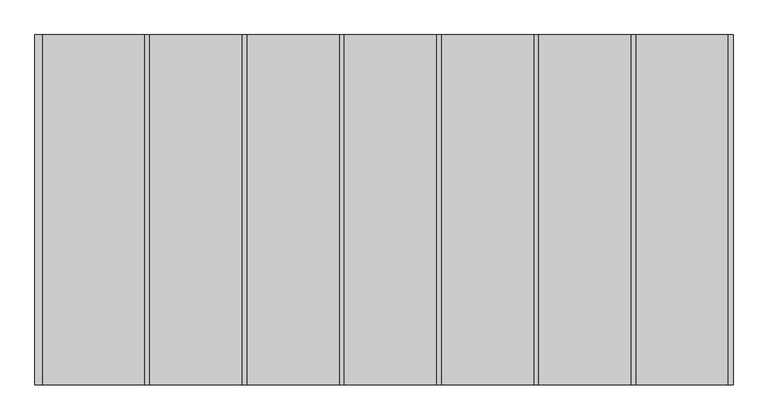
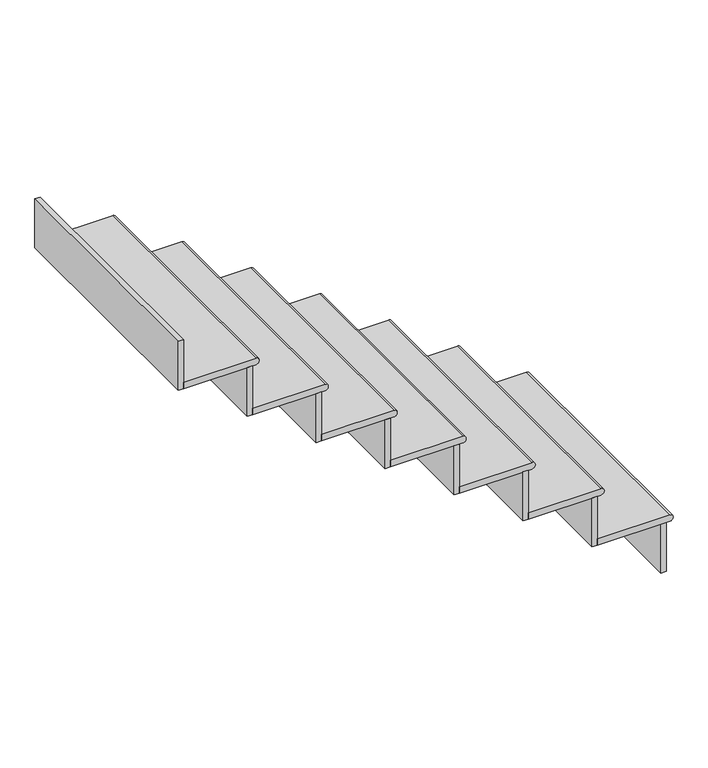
"""IFC4 building model written with IfcOpenShell, lengths in millimetres: stair flight geometry."""

from ifc_helpers import new_model, si_unit, point, frame, frame_2d, origin, place, context, project, spatial, polyline, circle_curve, trimmed, segment, composite_curve, outline, extrude, source, transform, mapped, element, save


def stair_flight_34373fae(model_context):
    return source(origin(), model_context, "Body", "SweptSolid", [
        extrude(outline(composite_curve([segment(polyline([(1714.5, -16016.7481446), (1714.5, -16283.4481446), (1689.1, -16283.4481446), (1689.1, -16016.7481446)]), True, "CONTINUOUS"), segment(trimmed(circle_curve(frame_2d((1701.8, -16016.7481446)), 12.7), [point((1689.1, -16016.7481446))], [point((1714.5, -16016.7481446))], False, "CARTESIAN"), True, "CONTINUOUS")], self_intersect=False)), frame((0.0, 8223.1128094, 0.0), z_axis=(0.0, 1.0, 0.0), x_axis=(0.0, 0.0, 1.0)), (0.0, 0.0, 1.0), 914.4),
        extrude(outline(polyline([(-16048.4981446, 9137.5128094), (-16029.4481446, 9137.5128094), (-16029.4481446, 8223.1128094), (-16048.4981446, 8223.1128094), (-16048.4981446, 9137.5128094)])), frame((0.0, 0.0, 1498.6), z_axis=(0.0, 0.0, 1.0), x_axis=(1.0, 0.0, 0.0)), (0.0, 0.0, 1.0), 190.5),
        extrude(outline(polyline([(-16302.4981446, 9137.5128094), (-16283.4481446, 9137.5128094), (-16283.4481446, 8223.1128094), (-16302.4981446, 8223.1128094), (-16302.4981446, 9137.5128094)])), frame((0.0, 0.0, 1689.1), z_axis=(0.0, 0.0, 1.0), x_axis=(1.0, 0.0, 0.0)), (0.0, 0.0, 1.0), 190.5),
        extrude(outline(composite_curve([segment(polyline([(1905.0, -16270.7481446), (1905.0, -16537.4481446), (1879.6, -16537.4481446), (1879.6, -16270.7481446)]), True, "CONTINUOUS"), segment(trimmed(circle_curve(frame_2d((1892.3, -16270.7481446)), 12.7), [point((1879.6, -16270.7481446))], [point((1905.0, -16270.7481446))], False, "CARTESIAN"), True, "CONTINUOUS")], self_intersect=False)), frame((0.0, 8223.1128094, 0.0), z_axis=(0.0, 1.0, 0.0), x_axis=(0.0, 0.0, 1.0)), (0.0, 0.0, 1.0), 914.4),
        extrude(outline(polyline([(-16556.4981446, 9137.5128094), (-16537.4481446, 9137.5128094), (-16537.4481446, 8223.1128094), (-16556.4981446, 8223.1128094), (-16556.4981446, 9137.5128094)])), frame((0.0, 0.0, 1879.6), z_axis=(0.0, 0.0, 1.0), x_axis=(1.0, 0.0, 0.0)), (0.0, 0.0, 1.0), 190.5),
        extrude(outline(composite_curve([segment(polyline([(2095.5, -16524.7481446), (2095.5, -16791.4481446), (2070.1, -16791.4481446), (2070.1, -16524.7481446)]), True, "CONTINUOUS"), segment(trimmed(circle_curve(frame_2d((2082.8, -16524.7481446)), 12.7), [point((2070.1, -16524.7481446))], [point((2095.5, -16524.7481446))], False, "CARTESIAN"), True, "CONTINUOUS")], self_intersect=False)), frame((0.0, 8223.1128094, 0.0), z_axis=(0.0, 1.0, 0.0), x_axis=(0.0, 0.0, 1.0)), (0.0, 0.0, 1.0), 914.4),
        extrude(outline(polyline([(-16810.4981446, 9137.5128094), (-16791.4481446, 9137.5128094), (-16791.4481446, 8223.1128094), (-16810.4981446, 8223.1128094), (-16810.4981446, 9137.5128094)])), frame((0.0, 0.0, 2070.1), z_axis=(0.0, 0.0, 1.0), x_axis=(1.0, 0.0, 0.0)), (0.0, 0.0, 1.0), 190.5),
        extrude(outline(composite_curve([segment(polyline([(2286.0, -16778.7481446), (2286.0, -17045.4481446), (2260.6, -17045.4481446), (2260.6, -16778.7481446)]), True, "CONTINUOUS"), segment(trimmed(circle_curve(frame_2d((2273.3, -16778.7481446)), 12.7), [point((2260.6, -16778.7481446))], [point((2286.0, -16778.7481446))], False, "CARTESIAN"), True, "CONTINUOUS")], self_intersect=False)), frame((0.0, 8223.1128094, 0.0), z_axis=(0.0, 1.0, 0.0), x_axis=(0.0, 0.0, 1.0)), (0.0, 0.0, 1.0), 914.4),
        extrude(outline(polyline([(-17064.4981446, 9137.5128094), (-17045.4481446, 9137.5128094), (-17045.4481446, 8223.1128094), (-17064.4981446, 8223.1128094), (-17064.4981446, 9137.5128094)])), frame((0.0, 0.0, 2260.6), z_axis=(0.0, 0.0, 1.0), x_axis=(1.0, 0.0, 0.0)), (0.0, 0.0, 1.0), 190.5),
        extrude(outline(composite_curve([segment(polyline([(2476.5, -17032.7481446), (2476.5, -17299.4481446), (2451.1, -17299.4481446), (2451.1, -17032.7481446)]), True, "CONTINUOUS"), segment(trimmed(circle_curve(frame_2d((2463.8, -17032.7481446)), 12.7), [point((2451.1, -17032.7481446))], [point((2476.5, -17032.7481446))], False, "CARTESIAN"), True, "CONTINUOUS")], self_intersect=False)), frame((0.0, 8223.1128094, 0.0), z_axis=(0.0, 1.0, 0.0), x_axis=(0.0, 0.0, 1.0)), (0.0, 0.0, 1.0), 914.4),
        extrude(outline(polyline([(-17318.4981446, 9137.5128094), (-17299.4481446, 9137.5128094), (-17299.4481446, 8223.1128094), (-17318.4981446, 8223.1128094), (-17318.4981446, 9137.5128094)])), frame((0.0, 0.0, 2451.1), z_axis=(0.0, 0.0, 1.0), x_axis=(1.0, 0.0, 0.0)), (0.0, 0.0, 1.0), 190.5),
        extrude(outline(composite_curve([segment(polyline([(2667.0, -17286.7481446), (2667.0, -17553.4481446), (2641.6, -17553.4481446), (2641.6, -17286.7481446)]), True, "CONTINUOUS"), segment(trimmed(circle_curve(frame_2d((2654.3, -17286.7481446)), 12.7), [point((2641.6, -17286.7481446))], [point((2667.0, -17286.7481446))], False, "CARTESIAN"), True, "CONTINUOUS")], self_intersect=False)), frame((0.0, 8223.1128094, 0.0), z_axis=(0.0, 1.0, 0.0), x_axis=(0.0, 0.0, 1.0)), (0.0, 0.0, 1.0), 914.4),
        extrude(outline(polyline([(-17572.4981446, 9137.5128094), (-17553.4481446, 9137.5128094), (-17553.4481446, 8223.1128094), (-17572.4981446, 8223.1128094), (-17572.4981446, 9137.5128094)])), frame((0.0, 0.0, 2641.6), z_axis=(0.0, 0.0, 1.0), x_axis=(1.0, 0.0, 0.0)), (0.0, 0.0, 1.0), 190.5),
        extrude(outline(polyline([(-17826.4981446, 9137.5128094), (-17807.4481446, 9137.5128094), (-17807.4481446, 8223.1128094), (-17826.4981446, 8223.1128094), (-17826.4981446, 9137.5128094)])), frame((0.0, 0.0, 2832.1), z_axis=(0.0, 0.0, 1.0), x_axis=(1.0, 0.0, 0.0)), (0.0, 0.0, 1.0), 190.5),
        extrude(outline(composite_curve([segment(polyline([(2857.5, -17540.7481446), (2857.5, -17807.4481446), (2832.1, -17807.4481446), (2832.1, -17540.7481446)]), True, "CONTINUOUS"), segment(trimmed(circle_curve(frame_2d((2844.8, -17540.7481446)), 12.7), [point((2832.1, -17540.7481446))], [point((2857.5, -17540.7481446))], False, "CARTESIAN"), True, "CONTINUOUS")], self_intersect=False)), frame((0.0, 8223.1128094, 0.0), z_axis=(0.0, 1.0, 0.0), x_axis=(0.0, 0.0, 1.0)), (0.0, 0.0, 1.0), 914.4),
    ])


if __name__ == "__main__":
    model = new_model("IFC4")
    model_context = context("Model", 3, world=origin())
    ifc_project = project(units=[si_unit("LENGTHUNIT", "METRE", prefix="MILLI")], contexts=[model_context])
    site = spatial("IfcSite", under=ifc_project)
    building = spatial("IfcBuilding", under=site)
    placement = place(None, origin())
    stair_flight_shape = stair_flight_34373fae(model_context)
    element("IfcStairFlight", 1, ObjectType="Unassigned Steps with 1\" Tread 1\" Nosing 3/4\" Riser", at=placement, inside=building, context=model_context, shape_type="MappedRepresentation", body=[
        mapped(stair_flight_shape, transform((0.0, 0.0, 0.0), x_axis=(1.0, 0.0, 0.0), y_axis=(0.0, 1.0, 0.0), z_axis=(0.0, 0.0, 1.0))),
    ])
    save(model, "model.ifc")
